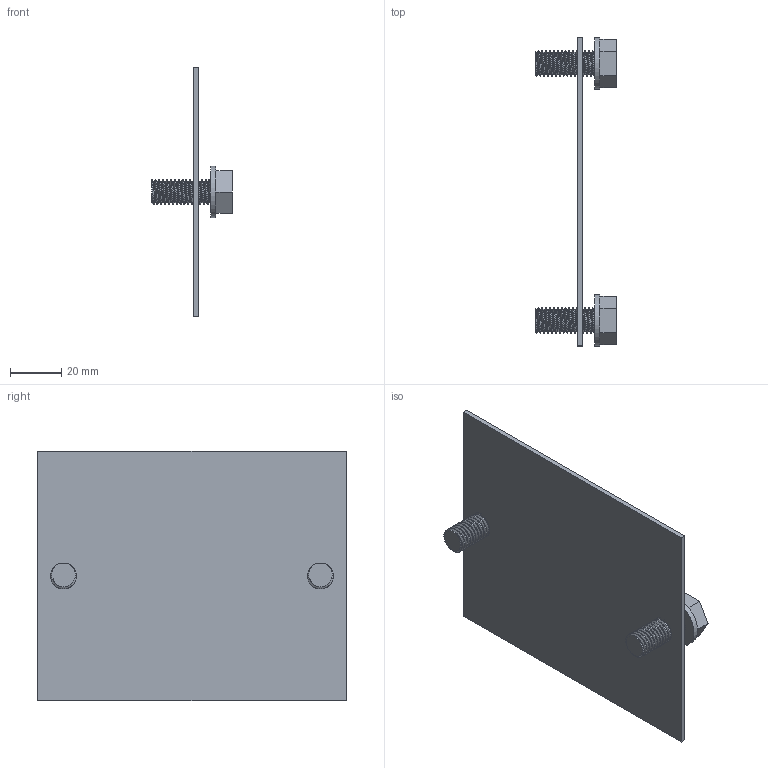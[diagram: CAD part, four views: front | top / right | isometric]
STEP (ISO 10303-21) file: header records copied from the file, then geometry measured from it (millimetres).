
FILE_DESCRIPTION(/* description */ (''),/* implementation_level */ '2;1');
FILE_NAME(/* name */ '32_1000384',/* time_stamp */ '2014-08-07T10:52:23+02:00',/* author */ (''),/* organization */ (''),/* preprocessor_version */ 'ST-DEVELOPER v9',/* originating_system */ 'UGS - NX 4.0',/* authorisation */ '');
FILE_SCHEMA (('CONFIG_CONTROL_DESIGN'));
Length unit declared in the file: millimetre
Products named in the file (1): MTro3787xhr0
Bounding box: 31.4 x 120 x 97.24 mm (x, y, z)
Volume: 30369.5 mm3; surface area: 29289.5 mm2
Topology: 5 solids, 5 shells, 46 faces, 106 edges, 72 vertices
Faces by surface type: plane 30, cylinder 10, bspline 6
Full cylindrical faces by diameter (mm): 8.782 x2, 10.5 x2, 20 x2
Entity records: 7900 total; most frequent: CARTESIAN_POINT 6849, ORIENTED_EDGE 192, DIRECTION 172, EDGE_CURVE 96, VERTEX_POINT 68, EDGE_LOOP 62, AXIS2_PLACEMENT_3D 59, LINE 54
